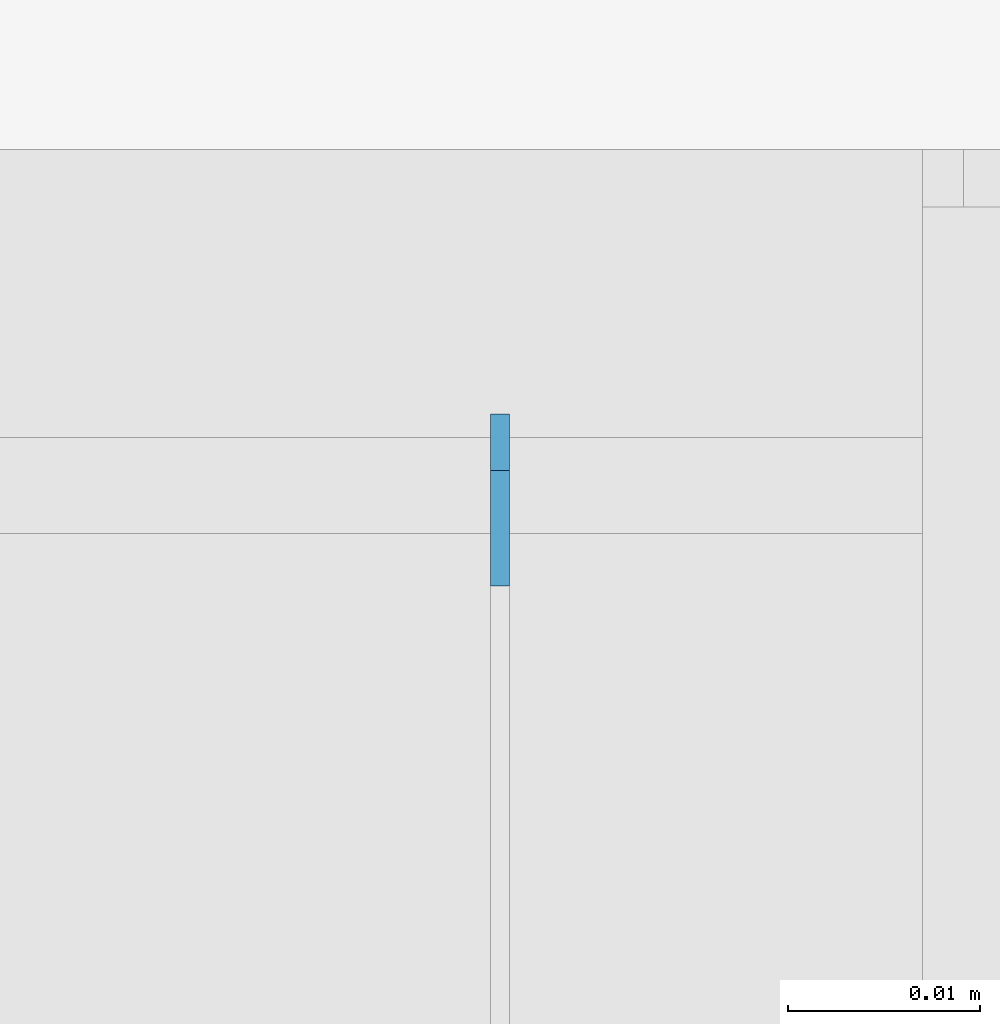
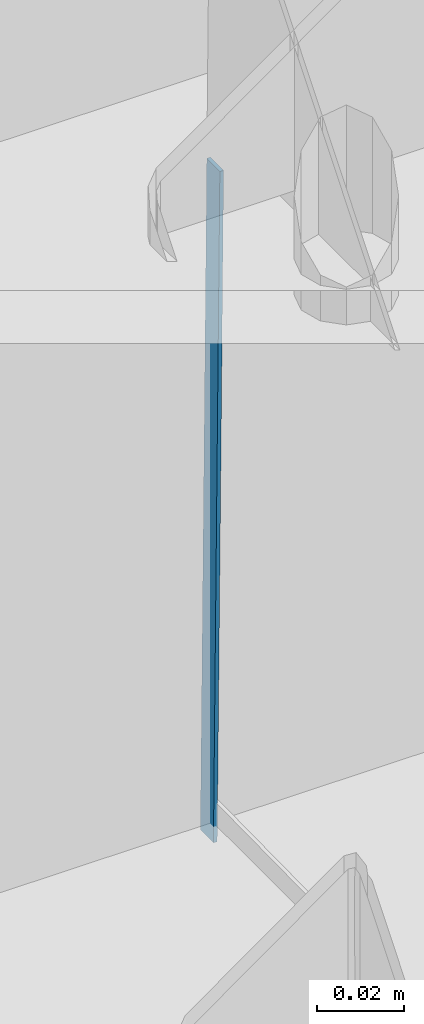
# One storey, part 43 of 186: 1 beam.
"""IFC4X3_ADD2 building model written with IfcOpenShell, lengths in millimetres."""

from ifc_helpers import new_model, si_unit, direction, frame, frame_2d, origin_with_axes, place, context, subcontext, project, spatial, rectangle, extrude, material, element, save


model = new_model("IFC4X3_ADD2")

# Units and contexts
model_context = context("Model", 3, precision=1e-05, world=origin_with_axes(), true_north=direction((0.0, 1.0)))
body_context = subcontext(model_context, "Body", "Model", "MODEL_VIEW")
ifc_project = project(units=[si_unit("LENGTHUNIT", "METRE", prefix="MILLI"), si_unit("AREAUNIT", "SQUARE_METRE"), si_unit("VOLUMEUNIT", "CUBIC_METRE"), si_unit("PLANEANGLEUNIT", "RADIAN"), si_unit("TIMEUNIT", "SECOND"), si_unit("MASSUNIT", "GRAM")], contexts=[model_context])

# Site, building, storey
site_placement = place(None, origin_with_axes())
site = spatial("IfcSite", under=ifc_project, at=site_placement, Name="Site", CompositionType="ELEMENT")
building_placement = place(site_placement, origin_with_axes())
building = spatial("IfcBuilding", under=site, at=building_placement, Name="IFC Building Story")
storey_placement = place(building_placement, frame((0.0, 0.0, 4370.0), z_axis=(0.0, 0.0, 1.0), x_axis=(1.0, 0.0, 0.0)))
storey = spatial("IfcBuildingStorey", under=building, at=storey_placement, Name="ETAGE 10 (1)", Elevation=4370.0)

# Beam
ifc_material = material(Name="STEEL/Accessory_invisible 261")
beam_placement = place(storey_placement, frame((33351.6886988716, 26531.7368929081, 3049.178947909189), z_axis=(-1.0, 0.0, 0.0), x_axis=(0.0, -0.01553280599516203, 0.9998793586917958)))
element("IfcBeam", 1, at=beam_placement, inside=storey, material=ifc_material, Name="BEK4", ObjectType="6*1 5", context=body_context, shape_type="SweptSolid", body=[
    extrude(rectangle(XDim=190.000000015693, YDim=5.99999999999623, at=frame_2d((0.0, 5.95523630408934e-12), x_axis=(1.0, 0.0))), origin_with_axes(), (0.0, 0.0, 1.0), 1.0),
])

save(model, "model.ifc")
